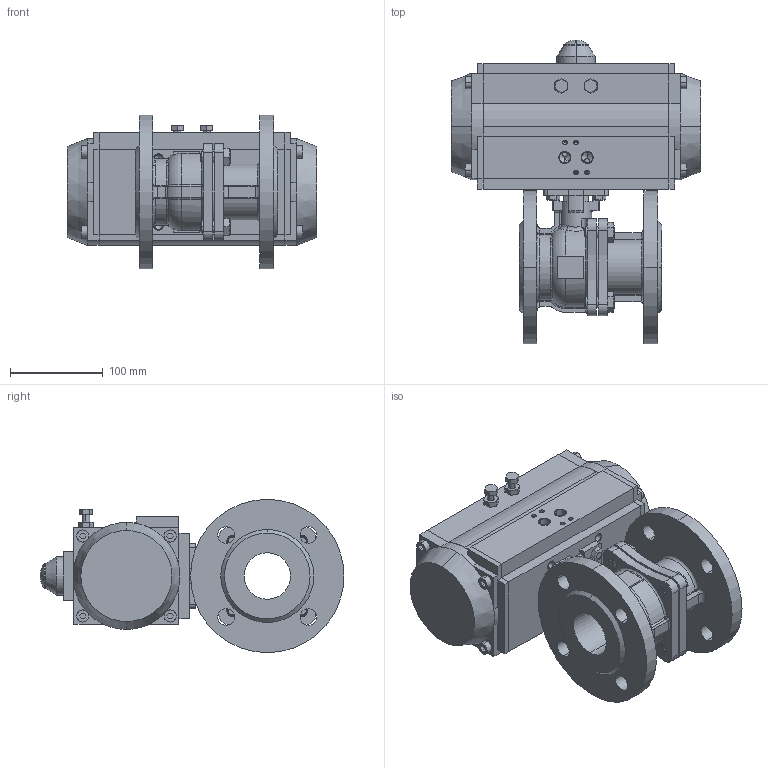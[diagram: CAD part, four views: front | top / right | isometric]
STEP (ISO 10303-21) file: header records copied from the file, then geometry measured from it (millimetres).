
FILE_DESCRIPTION((''),'2;1');
FILE_NAME('BV-22F_RPA_ASM','2024-09-11T',('USER'),(''),'PRO/ENGINEER BY PARAMETRIC TECHNOLOGY CORPORATION, 2011220','PRO/ENGINEER BY PARAMETRIC TECHNOLOGY CORPORATION, 2011220','');
FILE_SCHEMA(('CONFIG_CONTROL_DESIGN'));
Length unit declared in the file: millimetre
Products named in the file (12): KORPUS_KRAN_FL; B-7798-M12-25; SB_KRAN_FL_ASM; KORPUS_PNEVMOPRIVOD; KOLCO_25_GOST13942; KRISKA_VERX; VINT; KRISKA_LEFT; KRISKA_RIGHT; SB_PNEVMOPRIVOD_ASM; B-7798-M8-16; BV-22F_RPA_ASM
Assembly tree (17 placements, depth 3):
  BV-22F_RPA_ASM
    SB_KRAN_FL_ASM
      KORPUS_KRAN_FL
      B-7798-M12-25  x4
    SB_PNEVMOPRIVOD_ASM
      KORPUS_PNEVMOPRIVOD
      KOLCO_25_GOST13942
      KRISKA_VERX
      VINT
      KRISKA_LEFT
      KRISKA_RIGHT
    B-7798-M8-16  x4
Bounding box: 268 x 326.95 x 165 mm (x, y, z)
Volume: 4627621.3 mm3; surface area: 438404.9 mm2
Topology: 15 solids, 49 shells, 859 faces, 2202 edges, 1407 vertices
Faces by surface type: plane 413, cylinder 296, cone 82, torus 31, bspline 30, sphere 6, extrusion 1
Entity records: 24707 total; most frequent: CARTESIAN_POINT 5839, DIRECTION 4024, ORIENTED_EDGE 3708, EDGE_CURVE 1912, AXIS2_PLACEMENT_3D 1459, VERTEX_POINT 1251, VECTOR 1106, LINE 1105
